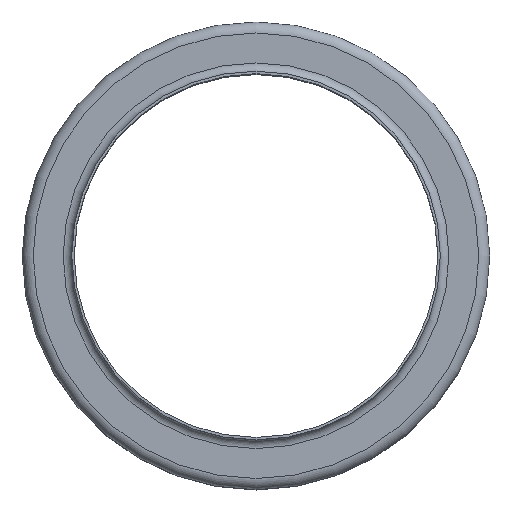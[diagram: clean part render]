
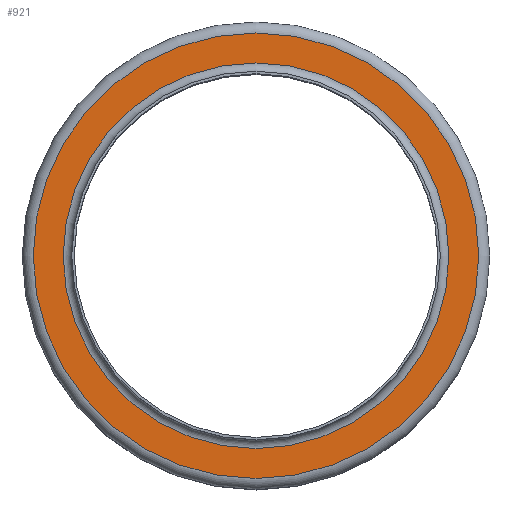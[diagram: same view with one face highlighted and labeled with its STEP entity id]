
A CAD part, top view. The second image highlights one B-rep face of the part: STEP entity #921.
In plain terms, the highlighted planar face has unit normal (0, 0, 1).
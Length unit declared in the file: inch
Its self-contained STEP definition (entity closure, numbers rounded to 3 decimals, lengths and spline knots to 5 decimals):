
#98=FACE_BOUND('',#272,.T.);
#165=FACE_OUTER_BOUND('',#271,.T.);
#271=EDGE_LOOP('',(#772));
#272=EDGE_LOOP('',(#773));
#385=CIRCLE('',#1110,1.85575);
#386=CIRCLE('',#1112,2.14425);
#466=VERTEX_POINT('',#1734);
#467=VERTEX_POINT('',#1738);
#571=EDGE_CURVE('',#466,#466,#385,.T.);
#572=EDGE_CURVE('',#467,#467,#386,.T.);
#772=ORIENTED_EDGE('',*,*,#572,.F.);
#773=ORIENTED_EDGE('',*,*,#571,.T.);
#854=PLANE('',#1111);
#921=ADVANCED_FACE('',(#165,#98),#854,.T.);
#1110=AXIS2_PLACEMENT_3D('',#1736,#1446,#1447);
#1111=AXIS2_PLACEMENT_3D('',#1737,#1448,#1449);
#1112=AXIS2_PLACEMENT_3D('',#1739,#1450,#1451);
#1446=DIRECTION('center_axis',(0.,0.,-1.));
#1447=DIRECTION('ref_axis',(1.,0.,0.));
#1448=DIRECTION('center_axis',(0.,0.,1.));
#1449=DIRECTION('ref_axis',(1.,0.,0.));
#1450=DIRECTION('center_axis',(0.,0.,-1.));
#1451=DIRECTION('ref_axis',(1.,0.,0.));
#1734=CARTESIAN_POINT('',(1.85575,0.,-0.08175));
#1736=CARTESIAN_POINT('Origin',(0.,0.,-0.08175));
#1737=CARTESIAN_POINT('Origin',(0.,2.14425,-0.08175));
#1738=CARTESIAN_POINT('',(2.14425,0.,-0.08175));
#1739=CARTESIAN_POINT('Origin',(0.,0.,-0.08175));
